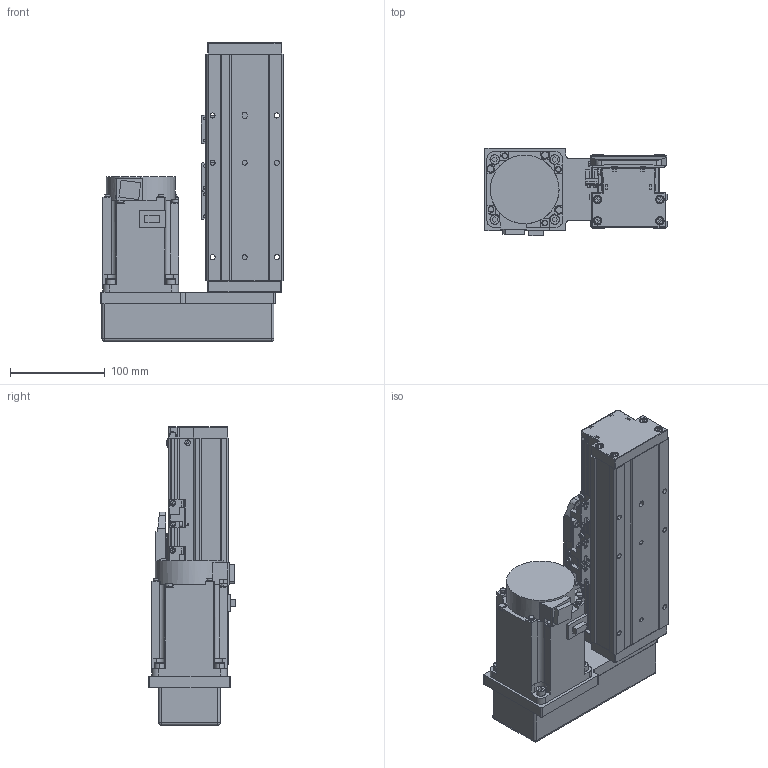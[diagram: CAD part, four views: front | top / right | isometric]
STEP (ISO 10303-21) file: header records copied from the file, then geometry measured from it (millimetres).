
FILE_DESCRIPTION (( 'STEP AP203' ), '1' );
FILE_NAME ('GTH8-50-BL-M75-C4.step', '2023-02-14T02:24:30', ( '微软用户' ), ( '微软中国' ), 'SwSTEP 2.0', 'SolidWorks 2020', '' );
FILE_SCHEMA (( 'CONFIG_CONTROL_DESIGN' ));
Length unit declared in the file: millimetre
Products named in the file (18): hg-kn73j_-s100; GTH80-006; GTH50-024; GTH8-50-BL-M75-C4; GTH80-013; GTH50-023; GBT 70.3-M3℅6; GBT96.1-2002 3×0.8; GTH80-022; BTH-M3X5X6; GTH80-001_50; GBT 70.1-M3℅6; CTHA86-015-3_CTHA86-015-4; GTH80-003; GBT 70.1-M4×16; CTHA86-035; GTH80-004; GTH80-028
Assembly tree (57 placements, depth 2):
  GTH8-50-BL-M75-C4
    GTH80-001_50
    GTH80-003
    GTH80-004
    GTH80-006
    GTH80-013
    GBT 70.3-M3℅6  x4
    GTH80-022
    GBT 70.1-M3℅6  x14
    GBT 70.1-M4×16  x8
    GTH80-028  x2
    GTH50-024  x3
    GTH50-023  x3
    GBT96.1-2002 3×0.8  x6
    BTH-M3X5X6  x8
    CTHA86-015-3_CTHA86-015-4
    CTHA86-035
    hg-kn73j_-s100
Bounding box: 193.5 x 92.3 x 316 mm (x, y, z)
Volume: 2587891.8 mm3; surface area: 321684.2 mm2
Topology: 59 solids, 59 shells, 2175 faces, 5034 edges, 3080 vertices
Faces by surface type: plane 1153, cylinder 607, cone 243, torus 158, sphere 12, bspline 2
Entity records: 38848 total; most frequent: CARTESIAN_POINT 6527, DIRECTION 6389, ORIENTED_EDGE 5878, EDGE_CURVE 2939, AXIS2_PLACEMENT_3D 2242, LINE 1905, VECTOR 1905, VERTEX_POINT 1855
